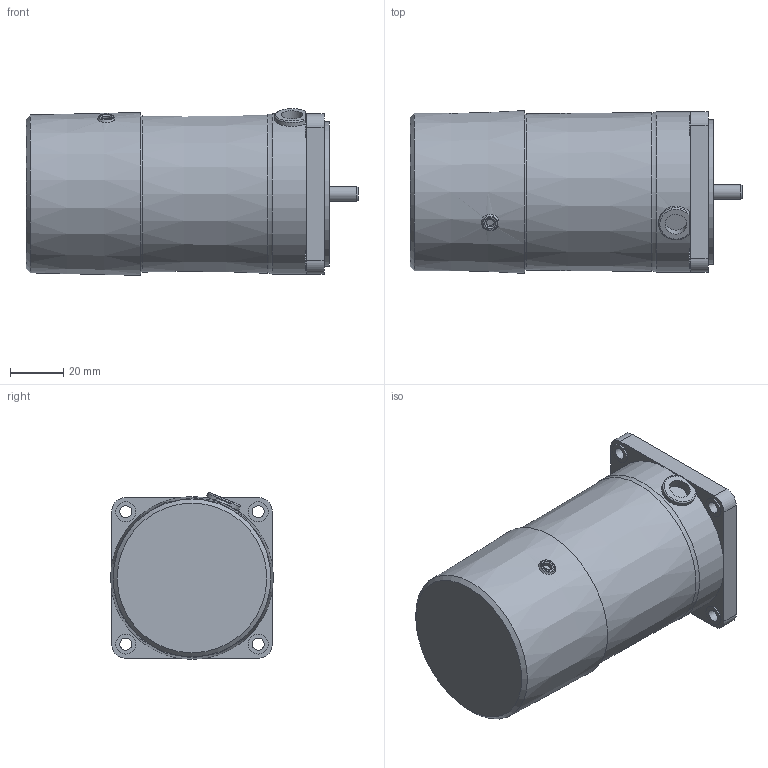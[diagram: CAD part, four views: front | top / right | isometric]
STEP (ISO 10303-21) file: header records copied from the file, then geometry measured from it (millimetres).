
FILE_DESCRIPTION((''),'2;1');
FILE_NAME('D:\STP파일\6W MOTOR\BLACK TYPE\S6R06G-E.stp','2013-05-20T15:46:53',('leebh'),(''),'Autodesk Inventor 2011','Autodesk Inventor 2011','');
FILE_SCHEMA(('AUTOMOTIVE_DESIGN { 1 0 10303 214 1 1 1 1 }'));
Length unit declared in the file: millimetre
Products named in the file (1): 부품1
Bounding box: 124.2 x 60.94 x 62.38 mm (x, y, z)
Volume: 313612.7 mm3; surface area: 31009.6 mm2
Topology: 1 solids, 3 shells, 93 faces, 220 edges, 144 vertices
Faces by surface type: plane 48, cylinder 35, cone 6, torus 4
Full cylindrical faces by diameter (mm): 3.1 x1, 4.5 x4, 4.6 x1, 5 x1, 5.57 x1, 7.5 x4, 8 x1, 10.1 x1, 25 x1, 54 x1, 58.5 x1, 60 x1
Entity records: 2743 total; most frequent: CARTESIAN_POINT 616, DIRECTION 452, ORIENTED_EDGE 378, EDGE_CURVE 189, AXIS2_PLACEMENT_3D 180, EDGE_LOOP 144, VERTEX_POINT 139, FACE_OUTER_BOUND 93
